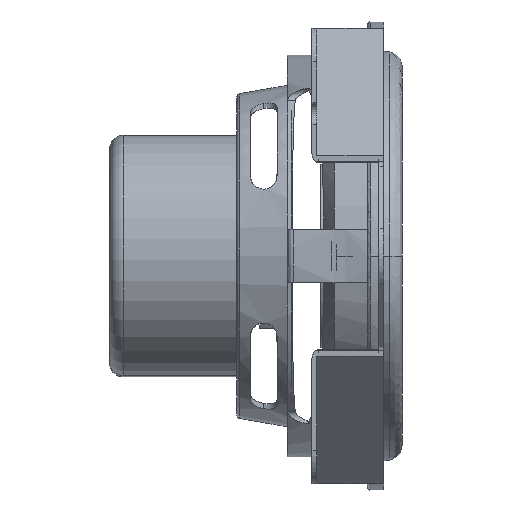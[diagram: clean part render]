
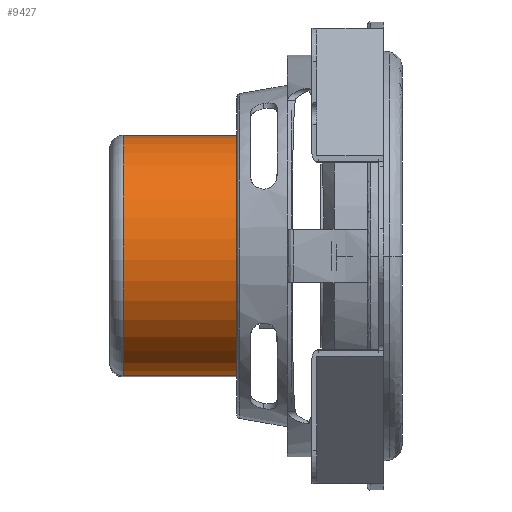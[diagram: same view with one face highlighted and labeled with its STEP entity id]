
A CAD part, left-side view. The second image highlights one B-rep face of the part: STEP entity #9427.
In plain terms, the highlighted cylindrical face has radius 18.05 mm (diameter 36.1 mm), a partial arc.
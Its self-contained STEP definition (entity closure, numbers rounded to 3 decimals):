
#318 = EDGE_LOOP ( 'NONE', ( #7696, #18369, #14052, #19389 ) ) ;
#4068 = CARTESIAN_POINT ( 'NONE',  ( 0., 2., 18.05 ) ) ;
#4699 = CARTESIAN_POINT ( 'NONE',  ( 0., 20., 0. ) ) ;
#7332 = CARTESIAN_POINT ( 'NONE',  ( 0., 20., -18.05 ) ) ;
#7696 = ORIENTED_EDGE ( 'NONE', *, *, #19378, .F. ) ;
#9427 = ADVANCED_FACE ( 'NONE', ( #13680 ), #17023, .T. ) ;
#9668 = CIRCLE ( 'NONE', #36985, 18.05 ) ;
#10478 = EDGE_CURVE ( 'NONE', #36655, #40825, #14955, .T. ) ;
#12957 = AXIS2_PLACEMENT_3D ( 'NONE', #4699, #17640, #35763 ) ;
#13680 = FACE_OUTER_BOUND ( 'NONE', #318, .T. ) ;
#13792 = DIRECTION ( 'NONE',  ( 0., -1., 0. ) ) ;
#14052 = ORIENTED_EDGE ( 'NONE', *, *, #38061, .T. ) ;
#14955 = CIRCLE ( 'NONE', #24928, 18.05 ) ;
#16039 = VERTEX_POINT ( 'NONE', #33441 ) ;
#17023 = CYLINDRICAL_SURFACE ( 'NONE', #12957, 18.05 ) ;
#17640 = DIRECTION ( 'NONE',  ( 0., -1., 0. ) ) ;
#17723 = DIRECTION ( 'NONE',  ( 0., 0., 1. ) ) ;
#18369 = ORIENTED_EDGE ( 'NONE', *, *, #37311, .F. ) ;
#18988 = CARTESIAN_POINT ( 'NONE',  ( 0., 20., 18.05 ) ) ;
#19378 = EDGE_CURVE ( 'NONE', #16039, #40825, #28366, .T. ) ;
#19389 = ORIENTED_EDGE ( 'NONE', *, *, #10478, .T. ) ;
#21451 = DIRECTION ( 'NONE',  ( 0., 1., 0. ) ) ;
#21982 = CARTESIAN_POINT ( 'NONE',  ( 0., 19., -18.05 ) ) ;
#24577 = CARTESIAN_POINT ( 'NONE',  ( 0., 2., 0. ) ) ;
#24928 = AXIS2_PLACEMENT_3D ( 'NONE', #24577, #21451, #17723 ) ;
#28366 = LINE ( 'NONE', #18988, #32749 ) ;
#29632 = LINE ( 'NONE', #7332, #38282 ) ;
#31121 = DIRECTION ( 'NONE',  ( 0., 1., 0. ) ) ;
#31483 = DIRECTION ( 'NONE',  ( 0., -1., 0. ) ) ;
#32749 = VECTOR ( 'NONE', #31483, 1000. ) ;
#33273 = VERTEX_POINT ( 'NONE', #21982 ) ;
#33441 = CARTESIAN_POINT ( 'NONE',  ( 0., 19., 18.05 ) ) ;
#34235 = CARTESIAN_POINT ( 'NONE',  ( 0., 19., 0. ) ) ;
#35763 = DIRECTION ( 'NONE',  ( 0., 0., -1. ) ) ;
#36544 = DIRECTION ( 'NONE',  ( 0., 0., 1. ) ) ;
#36655 = VERTEX_POINT ( 'NONE', #38635 ) ;
#36985 = AXIS2_PLACEMENT_3D ( 'NONE', #34235, #31121, #36544 ) ;
#37311 = EDGE_CURVE ( 'NONE', #33273, #16039, #9668, .T. ) ;
#38061 = EDGE_CURVE ( 'NONE', #33273, #36655, #29632, .T. ) ;
#38282 = VECTOR ( 'NONE', #13792, 1000. ) ;
#38635 = CARTESIAN_POINT ( 'NONE',  ( 0., 2., -18.05 ) ) ;
#40825 = VERTEX_POINT ( 'NONE', #4068 ) ;
